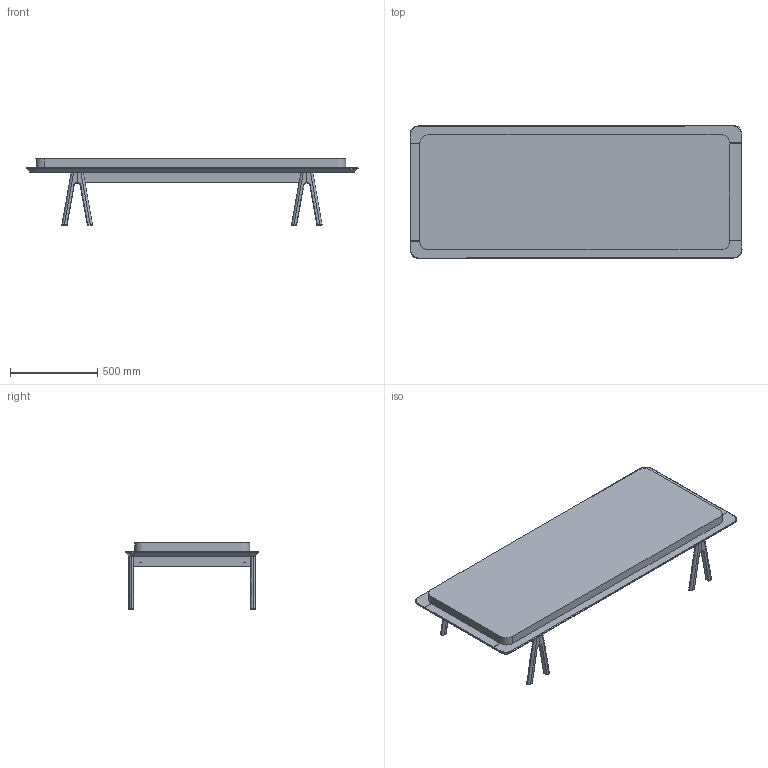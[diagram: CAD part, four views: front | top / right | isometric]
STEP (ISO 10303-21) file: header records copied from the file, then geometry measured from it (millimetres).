
FILE_DESCRIPTION(/* description */ (''),/* implementation_level */ '2;1');
FILE_NAME(/* name */ 'Level daybed',/* time_stamp */ '2019-09-17T14:06:53+02:00',/* author */ (''),/* organization */ (''),/* preprocessor_version */ 'ST-DEVELOPER v15',/* originating_system */ '',/* authorisation */ '');
FILE_SCHEMA (('AUTOMOTIVE_DESIGN'));
Length unit declared in the file: millimetre
Products named in the file (1): Document
Bounding box: 1906.16 x 765.17 x 380.46 mm (x, y, z)
Volume: 60144875.4 mm3; surface area: 5468087.4 mm2
Topology: 1 solids, 163 shells, 216 faces, 900 edges, 836 vertices
Faces by surface type: bspline 149, plane 67
Entity records: 16695 total; most frequent: CARTESIAN_POINT 10670, ORIENTED_EDGE 1016, EDGE_CURVE 894, VERTEX_POINT 836, B_SPLINE_CURVE_WITH_KNOTS 566, EDGE_LOOP 229, ADVANCED_FACE 216, FACE_OUTER_BOUND 216
